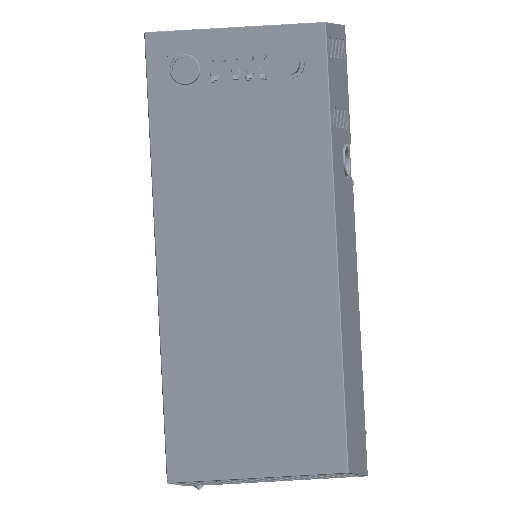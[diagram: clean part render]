
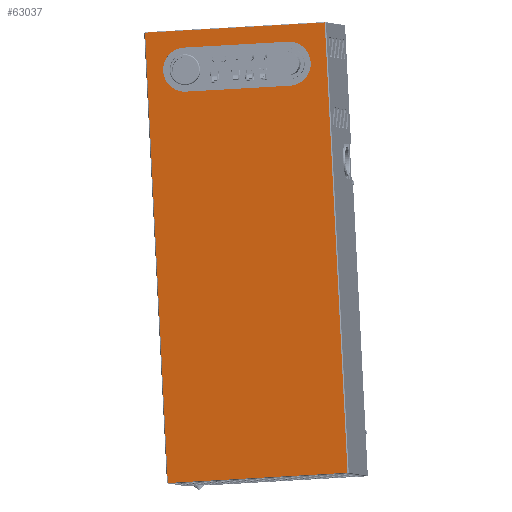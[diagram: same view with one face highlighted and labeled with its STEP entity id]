
A CAD part, top view. The second image highlights one B-rep face of the part: STEP entity #63037.
In plain terms, the highlighted planar face has unit normal (-0.171, 0.025, 0.985).
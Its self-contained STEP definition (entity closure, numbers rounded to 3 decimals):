
#657=FACE_BOUND('',#13600,.T.);
#2000=PLANE('',#66507);
#3569=CIRCLE('',#66508,40.);
#3570=CIRCLE('',#66509,40.);
#10711=FACE_OUTER_BOUND('',#13599,.T.);
#13599=EDGE_LOOP('',(#47908,#47909,#47910,#47911));
#13600=EDGE_LOOP('',(#47912,#47913,#47914,#47915));
#17833=LINE('',#91484,#23592);
#17834=LINE('',#91490,#23593);
#17835=LINE('',#91493,#23594);
#17836=LINE('',#91494,#23595);
#17837=LINE('',#91499,#23596);
#17838=LINE('',#91502,#23597);
#23592=VECTOR('',#73382,10.);
#23593=VECTOR('',#73389,10.);
#23594=VECTOR('',#73394,10.);
#23595=VECTOR('',#73395,10.);
#23596=VECTOR('',#73398,10.);
#23597=VECTOR('',#73401,10.);
#29885=VERTEX_POINT('',#91481);
#29886=VERTEX_POINT('',#91483);
#29887=VERTEX_POINT('',#91487);
#29888=VERTEX_POINT('',#91489);
#29889=VERTEX_POINT('',#91495);
#29890=VERTEX_POINT('',#91496);
#29891=VERTEX_POINT('',#91498);
#29892=VERTEX_POINT('',#91500);
#37424=EDGE_CURVE('',#29886,#29885,#17833,.T.);
#37427=EDGE_CURVE('',#29888,#29887,#17834,.T.);
#37429=EDGE_CURVE('',#29886,#29887,#17835,.T.);
#37430=EDGE_CURVE('',#29888,#29885,#17836,.T.);
#37431=EDGE_CURVE('',#29889,#29890,#3569,.T.);
#37432=EDGE_CURVE('',#29890,#29891,#17837,.T.);
#37433=EDGE_CURVE('',#29891,#29892,#3570,.T.);
#37434=EDGE_CURVE('',#29892,#29889,#17838,.T.);
#47908=ORIENTED_EDGE('',*,*,#37427,.T.);
#47909=ORIENTED_EDGE('',*,*,#37429,.F.);
#47910=ORIENTED_EDGE('',*,*,#37424,.T.);
#47911=ORIENTED_EDGE('',*,*,#37430,.F.);
#47912=ORIENTED_EDGE('',*,*,#37431,.T.);
#47913=ORIENTED_EDGE('',*,*,#37432,.T.);
#47914=ORIENTED_EDGE('',*,*,#37433,.T.);
#47915=ORIENTED_EDGE('',*,*,#37434,.T.);
#63037=ADVANCED_FACE('',(#10711,#657),#2000,.F.);
#66507=AXIS2_PLACEMENT_3D('',#91492,#73392,#73393);
#66508=AXIS2_PLACEMENT_3D('',#91497,#73396,#73397);
#66509=AXIS2_PLACEMENT_3D('',#91501,#73399,#73400);
#73382=DIRECTION('',(0.05,-0.998,0.034));
#73389=DIRECTION('',(-0.05,0.998,-0.034));
#73392=DIRECTION('center_axis',(0.171,-0.025,-0.985));
#73393=DIRECTION('ref_axis',(-0.05,0.998,-0.034));
#73394=DIRECTION('',(0.984,0.056,0.169));
#73395=DIRECTION('',(-0.984,-0.056,-0.169));
#73396=DIRECTION('center_axis',(0.171,-0.025,-0.985));
#73397=DIRECTION('ref_axis',(-0.05,0.998,-0.034));
#73398=DIRECTION('',(-0.984,-0.056,-0.169));
#73399=DIRECTION('center_axis',(0.171,-0.025,-0.985));
#73400=DIRECTION('ref_axis',(0.05,-0.998,0.034));
#73401=DIRECTION('',(0.984,0.056,0.169));
#91481=CARTESIAN_POINT('',(-823.815,990.076,851.036));
#91483=CARTESIAN_POINT('',(-865.081,1806.551,822.929));
#91484=CARTESIAN_POINT('',(-854.765,1602.432,829.956));
#91487=CARTESIAN_POINT('',(-539.376,1824.941,878.953));
#91489=CARTESIAN_POINT('',(-498.109,1008.467,907.059));
#91490=CARTESIAN_POINT('',(-508.426,1212.585,900.033));
#91492=CARTESIAN_POINT('Origin',(-681.595,1407.509,864.994));
#91493=CARTESIAN_POINT('',(-867.049,1806.44,822.591));
#91494=CARTESIAN_POINT('',(-496.141,1008.578,907.398));
#91495=CARTESIAN_POINT('',(-606.2,1790.138,868.255));
#91496=CARTESIAN_POINT('',(-602.164,1710.287,871.004));
#91497=CARTESIAN_POINT('Origin',(-604.182,1750.212,869.629));
#91498=CARTESIAN_POINT('',(-791.093,1699.619,838.507));
#91499=CARTESIAN_POINT('',(-743.861,1702.286,846.631));
#91500=CARTESIAN_POINT('',(-795.129,1779.47,835.758));
#91501=CARTESIAN_POINT('Origin',(-793.111,1739.545,837.132));
#91502=CARTESIAN_POINT('',(-653.432,1787.471,860.131));
